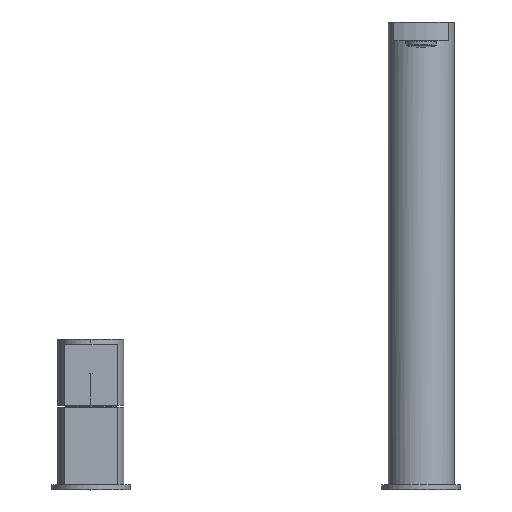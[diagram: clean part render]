
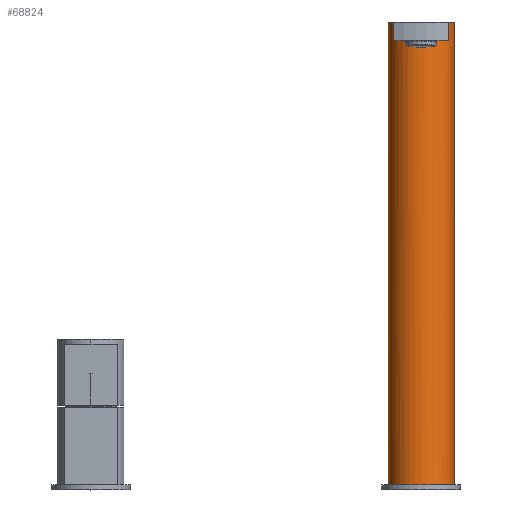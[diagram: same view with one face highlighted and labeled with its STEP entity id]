
A CAD part, top view. The second image highlights one B-rep face of the part: STEP entity #68824.
In plain terms, the highlighted cylindrical face has radius 20 mm (diameter 40 mm), a partial arc.
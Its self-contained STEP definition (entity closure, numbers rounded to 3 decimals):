
#15857=CARTESIAN_POINT('',(200.,269.,0.));
#15858=DIRECTION('',(0.,-1.,0.));
#15859=DIRECTION('',(0.8,0.,0.6));
#15860=AXIS2_PLACEMENT_3D('',#15857,#15858,#15859);
#16081=CARTESIAN_POINT('',(200.,280.,0.));
#16082=DIRECTION('',(0.,1.,0.));
#16083=DIRECTION('',(0.803,0.,0.597));
#16084=AXIS2_PLACEMENT_3D('',#16081,#16082,#16083);
#16109=CARTESIAN_POINT('',(200.,280.,0.));
#16110=DIRECTION('',(0.,1.,0.));
#16111=DIRECTION('',(-1.,0.,0.));
#16112=AXIS2_PLACEMENT_3D('',#16109,#16110,#16111);
#16147=CARTESIAN_POINT('',(200.,0.,0.));
#16148=DIRECTION('',(0.,1.,0.));
#16149=DIRECTION('',(-1.,0.,0.));
#16150=AXIS2_PLACEMENT_3D('',#16147,#16148,#16149);
#16152=DIRECTION('',(0.,1.,0.));
#16153=VECTOR('',#16152,280.);
#16154=CARTESIAN_POINT('',(180.,0.,0.));
#16155=LINE('',#16154,#16153);
#16156=DIRECTION('',(0.,1.,0.));
#16157=VECTOR('',#16156,11.);
#16158=CARTESIAN_POINT('',(183.95,269.,11.933));
#16159=LINE('',#16158,#16157);
#16160=DIRECTION('',(0.,-1.,0.));
#16161=VECTOR('',#16160,11.);
#16162=CARTESIAN_POINT('',(216.05,280.,11.933));
#16163=LINE('',#16162,#16161);
#16164=DIRECTION('',(0.,1.,0.));
#16165=VECTOR('',#16164,280.);
#16166=CARTESIAN_POINT('',(220.,0.,0.));
#16167=LINE('',#16166,#16165);
#16176=CARTESIAN_POINT('',(200.,269.,0.));
#16177=DIRECTION('',(0.,1.,0.));
#16178=DIRECTION('',(-0.803,0.,0.597));
#16179=AXIS2_PLACEMENT_3D('',#16176,#16177,#16178);
#16199=CARTESIAN_POINT('',(200.,269.,0.));
#16200=DIRECTION('',(0.,1.,0.));
#16201=DIRECTION('',(0.8,0.,0.6));
#16202=AXIS2_PLACEMENT_3D('',#16199,#16200,#16201);
#49485=CARTESIAN_POINT('',(183.95,280.,11.933));
#49487=VERTEX_POINT('',#49485);
#49490=CARTESIAN_POINT('',(216.05,280.,11.933));
#49492=VERTEX_POINT('',#49490);
#49493=CARTESIAN_POINT('',(183.95,269.,11.933));
#49495=VERTEX_POINT('',#49493);
#49497=CARTESIAN_POINT('',(216.05,269.,11.933));
#49499=VERTEX_POINT('',#49497);
#49501=CARTESIAN_POINT('',(220.,280.,0.));
#49502=CARTESIAN_POINT('',(180.,280.,0.));
#49503=VERTEX_POINT('',#49501);
#49504=VERTEX_POINT('',#49502);
#49531=CARTESIAN_POINT('',(184.,269.,12.));
#49533=VERTEX_POINT('',#49531);
#49535=CARTESIAN_POINT('',(216.,269.,12.));
#49537=VERTEX_POINT('',#49535);
#56740=CARTESIAN_POINT('',(220.,0.,0.));
#56741=CARTESIAN_POINT('',(180.,0.,0.));
#56742=VERTEX_POINT('',#56740);
#56743=VERTEX_POINT('',#56741);
#68803=CARTESIAN_POINT('',(200.,0.,0.));
#68804=DIRECTION('',(0.,1.,0.));
#68805=DIRECTION('',(1.,0.,0.));
#68806=AXIS2_PLACEMENT_3D('',#68803,#68804,#68805);
#68807=CYLINDRICAL_SURFACE('',#68806,20.);
#68808=ORIENTED_EDGE('',*,*,#68760,.F.);
#68809=ORIENTED_EDGE('',*,*,#68743,.T.);
#68810=ORIENTED_EDGE('',*,*,#68728,.T.);
#68812=ORIENTED_EDGE('',*,*,#68811,.F.);
#68814=ORIENTED_EDGE('',*,*,#68813,.T.);
#68815=ORIENTED_EDGE('',*,*,#68384,.F.);
#68817=ORIENTED_EDGE('',*,*,#68816,.T.);
#68819=ORIENTED_EDGE('',*,*,#68818,.F.);
#68820=ORIENTED_EDGE('',*,*,#68719,.T.);
#68821=ORIENTED_EDGE('',*,*,#68740,.F.);
#68822=EDGE_LOOP('',(#68808,#68809,#68810,#68812,#68814,#68815,#68817,#68819,
#68820,#68821));
#68823=FACE_OUTER_BOUND('',#68822,.F.);
#68824=ADVANCED_FACE('',(#68823),#68807,.T.);
#15861=CIRCLE('',#15860,20.);
#16085=CIRCLE('',#16084,20.);
#16113=CIRCLE('',#16112,20.);
#16151=CIRCLE('',#16150,20.);
#16180=CIRCLE('',#16179,20.);
#16203=CIRCLE('',#16202,20.);
#68384=EDGE_CURVE('',#49537,#49533,#15861,.T.);
#68719=EDGE_CURVE('',#49492,#49503,#16085,.T.);
#68728=EDGE_CURVE('',#49504,#49487,#16113,.T.);
#68740=EDGE_CURVE('',#56742,#49503,#16167,.T.);
#68743=EDGE_CURVE('',#56743,#49504,#16155,.T.);
#68760=EDGE_CURVE('',#56743,#56742,#16151,.T.);
#68811=EDGE_CURVE('',#49495,#49487,#16159,.T.);
#68813=EDGE_CURVE('',#49495,#49533,#16180,.T.);
#68816=EDGE_CURVE('',#49537,#49499,#16203,.T.);
#68818=EDGE_CURVE('',#49492,#49499,#16163,.T.);
